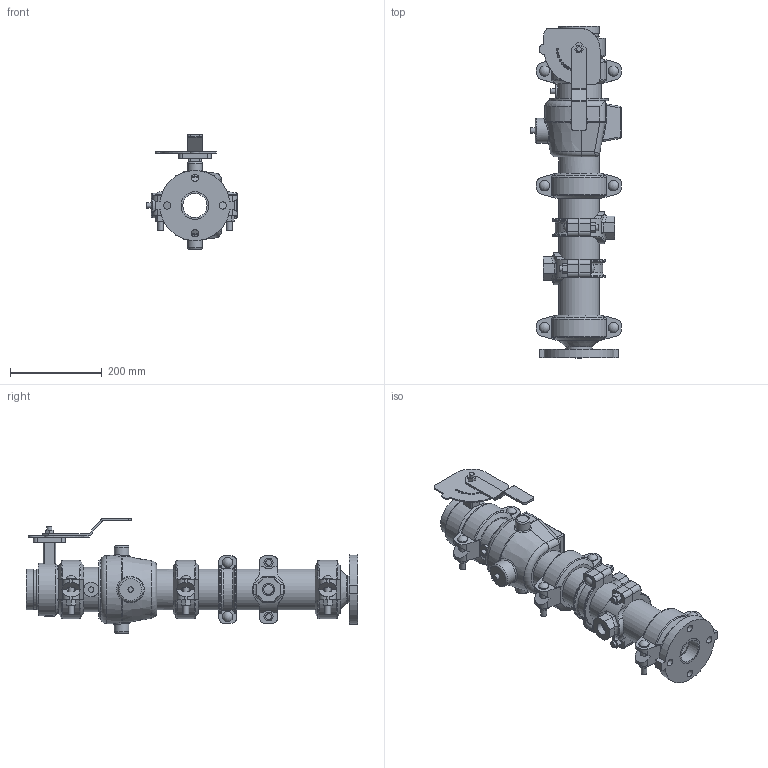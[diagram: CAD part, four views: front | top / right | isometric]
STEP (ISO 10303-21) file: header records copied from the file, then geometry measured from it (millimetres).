
FILE_DESCRIPTION(/* description */ ('VIC DVI PUMP DROP VERT S/380 (OGSxFLG)','CAx-IF Rec.Pracs.---Representation and Presentation of Product Manufacturing Information (PMI)---4.0---2014-10-13'),/* implementation_level */ '2;1');
FILE_NAME(/* name */ 'C:\Users\Public\Documents\Victaulic.Temp\A765\Victaulic_IPS_Vertical DVI_CL 150_Series 380 (OGSxFLG)_03.0x02.0 (80x50).stp',/* time_stamp */ '2022-07-25T11:10:08+02:00',/* author */ ('Vjadhav'),/* organization */ ('Victaulic'),/* preprocessor_version */ 'ST-DEVELOPER v18',/* originating_system */ 'Autodesk Inventor 2020',/* authorisation */ '');
FILE_SCHEMA (('AP242_MANAGED_MODEL_BASED_3D_ENGINEERING_MIM_LF { 1 0 10303 442 1 1 4 }'));
Length unit declared in the file: inch
Products named in the file (10): 380-03.0x02.0; 741-02.0; 050-03.0x02.0; Pipe-03.0; 716H-03.0; 177N-03.0; 761-03.0; 920NT-03.0x0.75; 920N LOWER HSG-03.0; 920NT-03.0x0.75_1
Assembly tree (12 placements, depth 3):
  380-03.0x02.0
    741-02.0
    050-03.0x02.0
    177N-03.0  x3
    Pipe-03.0
    716H-03.0
    761-03.0
    920NT-03.0x0.75  x2
      920N LOWER HSG-03.0
      920NT-03.0x0.75_1
Bounding box: 198 x 722.33 x 249.43 mm (x, y, z)
Volume: 4642438.2 mm3; surface area: 884825.3 mm2
Topology: 12 solids, 13 shells, 755 faces, 1987 edges, 1308 vertices
Faces by surface type: plane 387, cylinder 266, torus 35, bspline 35, cone 16, sphere 16
Full cylindrical faces by diameter (mm): 4.826 x10, 8.636 x4, 10.922 x2, 11.43 x2, 12.7 x14, 15.875 x4, 20.93 x2, 21.982 x4, 22.225 x6, 22.86 x1, 26.924 x2, 31.75 x2, 32.004 x1, 52.502 x1, 53.975 x1, 55.118 x1, 57.15 x1, 60.325 x3, 76.2 x3, 77.927 x3, 80.772 x1, 84.938 x7, 88.9 x18, 97.028 x1, 114.3 x1, 127 x1
Entity records: 16730 total; most frequent: CARTESIAN_POINT 4251, DIRECTION 2513, ORIENTED_EDGE 2388, EDGE_CURVE 1194, AXIS2_PLACEMENT_3D 969, VERTEX_POINT 784, LINE 575, VECTOR 575
